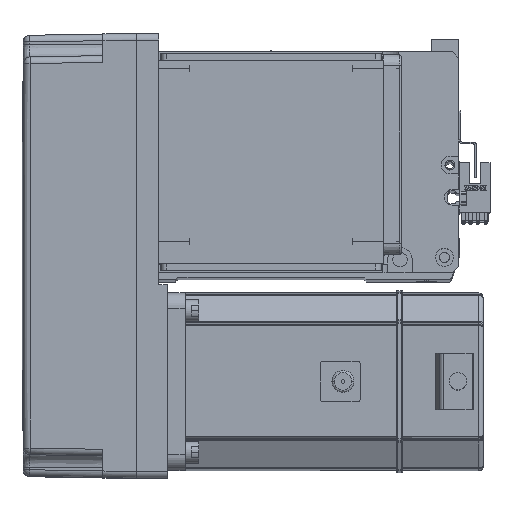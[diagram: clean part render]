
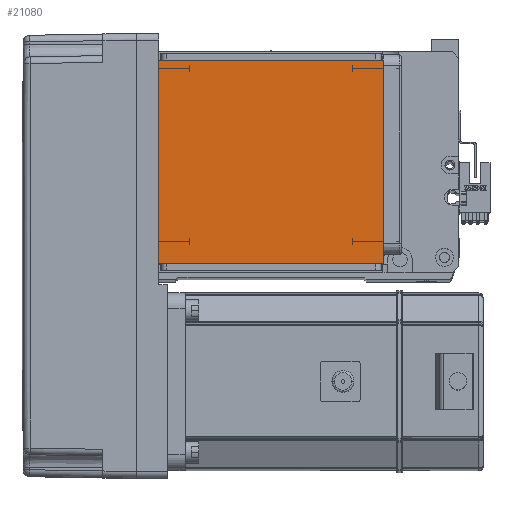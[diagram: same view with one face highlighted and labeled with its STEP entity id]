
A CAD part, top view. The second image highlights one B-rep face of the part: STEP entity #21080.
In plain terms, the highlighted planar face has unit normal (0, 0, 1).
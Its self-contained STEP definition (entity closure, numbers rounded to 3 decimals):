
#4156 = VERTEX_POINT ( 'NONE', #39883 ) ;
#4268 = DIRECTION ( 'NONE',  ( 1., 0., 0. ) ) ;
#4919 = ORIENTED_EDGE ( 'NONE', *, *, #8844, .T. ) ;
#8844 = EDGE_CURVE ( 'NONE', #4156, #30873, #29768, .T. ) ;
#9865 = EDGE_CURVE ( 'NONE', #10077, #30873, #30337, .T. ) ;
#10077 = VERTEX_POINT ( 'NONE', #22123 ) ;
#12098 = CARTESIAN_POINT ( 'NONE',  ( -50.5, 122., 115. ) ) ;
#12750 = VECTOR ( 'NONE', #22250, 1000. ) ;
#14027 = DIRECTION ( 'NONE',  ( 1., 0., 0. ) ) ;
#14253 = CARTESIAN_POINT ( 'NONE',  ( 50.5, 111.5, 115. ) ) ;
#16327 = PLANE ( 'NONE',  #53591 ) ;
#18786 = VECTOR ( 'NONE', #44798, 1000. ) ;
#19709 = FACE_OUTER_BOUND ( 'NONE', #43334, .T. ) ;
#19925 = VERTEX_POINT ( 'NONE', #14253 ) ;
#21080 = ADVANCED_FACE ( 'NONE', ( #19709 ), #16327, .T. ) ;
#21344 = LINE ( 'NONE', #53261, #39732 ) ;
#21787 = ORIENTED_EDGE ( 'NONE', *, *, #35619, .T. ) ;
#22123 = CARTESIAN_POINT ( 'NONE',  ( 50.5, 20., 115. ) ) ;
#22250 = DIRECTION ( 'NONE',  ( 0., 1., 0. ) ) ;
#25056 = DIRECTION ( 'NONE',  ( 0., 0., 1. ) ) ;
#29276 = EDGE_CURVE ( 'NONE', #4156, #19925, #21344, .T. ) ;
#29768 = LINE ( 'NONE', #12098, #46158 ) ;
#30337 = LINE ( 'NONE', #54297, #18786 ) ;
#30873 = VERTEX_POINT ( 'NONE', #32286 ) ;
#31468 = ORIENTED_EDGE ( 'NONE', *, *, #29276, .F. ) ;
#32286 = CARTESIAN_POINT ( 'NONE',  ( -50.5, 20., 115. ) ) ;
#34512 = ORIENTED_EDGE ( 'NONE', *, *, #9865, .F. ) ;
#35619 = EDGE_CURVE ( 'NONE', #10077, #19925, #35934, .T. ) ;
#35934 = LINE ( 'NONE', #48159, #12750 ) ;
#39732 = VECTOR ( 'NONE', #14027, 1000. ) ;
#39883 = CARTESIAN_POINT ( 'NONE',  ( -50.5, 111.5, 115. ) ) ;
#42587 = DIRECTION ( 'NONE',  ( 0., -1., 0. ) ) ;
#43334 = EDGE_LOOP ( 'NONE', ( #31468, #4919, #34512, #21787 ) ) ;
#44798 = DIRECTION ( 'NONE',  ( -1., 0., 0. ) ) ;
#46158 = VECTOR ( 'NONE', #42587, 1000. ) ;
#48159 = CARTESIAN_POINT ( 'NONE',  ( 50.5, 122., 115. ) ) ;
#51155 = CARTESIAN_POINT ( 'NONE',  ( 0., 0., 115. ) ) ;
#53261 = CARTESIAN_POINT ( 'NONE',  ( -70.004, 111.5, 115. ) ) ;
#53591 = AXIS2_PLACEMENT_3D ( 'NONE', #51155, #25056, #4268 ) ;
#54297 = CARTESIAN_POINT ( 'NONE',  ( -70.004, 20., 115. ) ) ;
